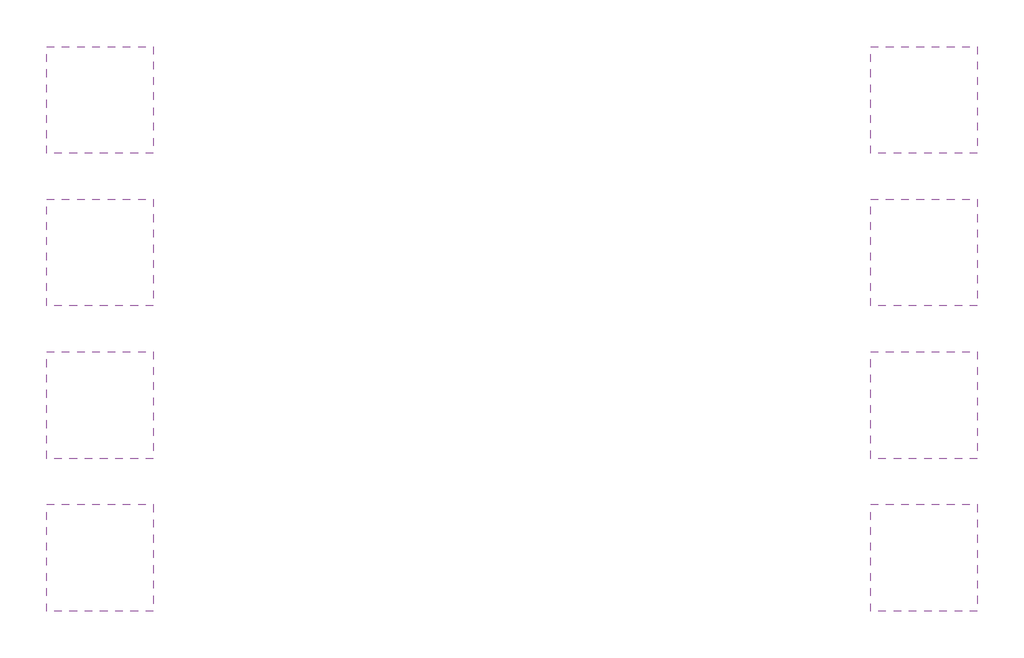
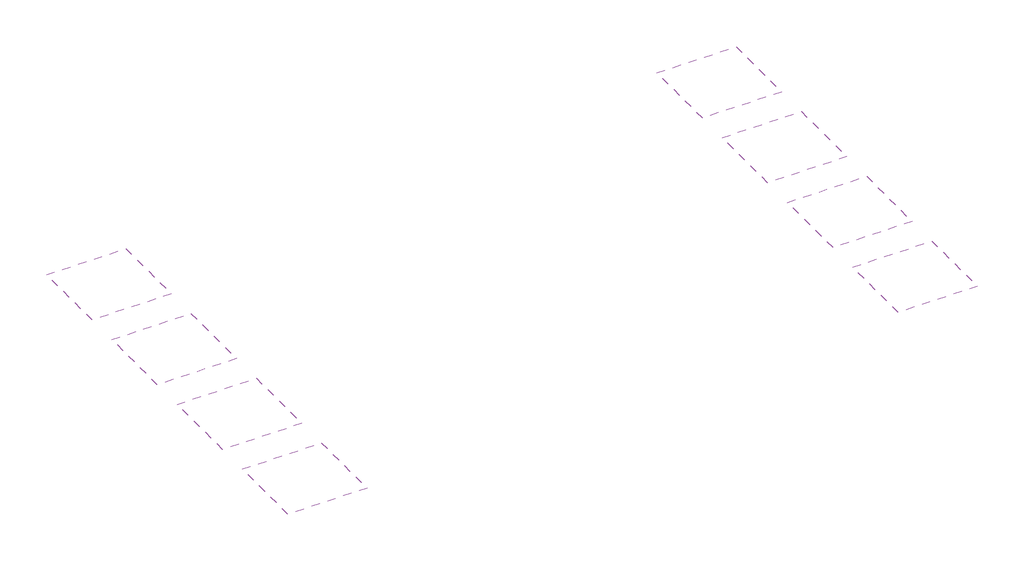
# One storey: 8 coverings.
"""IFC4 building model written with IfcOpenShell, lengths in millimetres."""

from ifc_helpers import new_model, si_unit, frame, origin, place, context, project, spatial, polyline, outline, extrude, element, save

model = new_model("IFC4")

# Units and contexts
model_context = context("Model", 3, world=origin())
ifc_project = project(units=[si_unit("LENGTHUNIT", "METRE", prefix="MILLI")], contexts=[model_context])

# Site, building, storey
site = spatial("IfcSite", under=ifc_project)
building = spatial("IfcBuilding", under=site)
storey = spatial("IfcBuildingStorey", under=building, Name="Gyptone Tile Series Edge A", Elevation=0.0)

# Coverings
placement = place(None, origin())
element("IfcCovering", 1, ObjectType="Gyptone Tile Base 31 (600mm x 600mm)", at=placement, inside=storey, context=model_context, shape_type="SweptSolid", body=[
    extrude(outline(polyline([(1488.7108797, 1750.6340483), (1488.7108797, -5249.3659517), (-5511.2891203, -5249.3659517), (-5511.2891203, 1750.6340483), (1488.7108797, 1750.6340483)])), frame((0.0, 0.0, 2600.0), z_axis=(0.0, 0.0, 1.0), x_axis=(1.0, 0.0, 0.0)), (0.0, 0.0, 1.0), 10.0),
])
element("IfcCovering", 2, ObjectType="Gyptone Tile Line 4 (600mm x 600mm)", at=placement, inside=storey, context=model_context, shape_type="SweptSolid", body=[
    extrude(outline(polyline([(1488.7108797, -8249.3659517), (1488.7108797, -15249.3659517), (-5511.2891203, -15249.3659517), (-5511.2891203, -8249.3659517), (1488.7108797, -8249.3659517)])), frame((0.0, 0.0, 2600.0), z_axis=(0.0, 0.0, 1.0), x_axis=(1.0, 0.0, 0.0)), (0.0, 0.0, 1.0), 10.0),
])
element("IfcCovering", 3, ObjectType="Gyptone Tile Point 11 (600mm x 600mm)", at=placement, inside=storey, context=model_context, shape_type="SweptSolid", body=[
    extrude(outline(polyline([(1488.7108797, -18249.3659517), (1488.7108797, -25249.3659517), (-5511.2891203, -25249.3659517), (-5511.2891203, -18249.3659517), (1488.7108797, -18249.3659517)])), frame((0.0, 0.0, 2600.0), z_axis=(0.0, 0.0, 1.0), x_axis=(1.0, 0.0, 0.0)), (0.0, 0.0, 1.0), 10.0),
])
element("IfcCovering", 4, ObjectType="Gyptone Tile Point 12 (600mm x 600mm)", at=placement, inside=storey, context=model_context, shape_type="SweptSolid", body=[
    extrude(outline(polyline([(1488.7108797, -28249.3659517), (1488.7108797, -35249.3659517), (-5511.2891203, -35249.3659517), (-5511.2891203, -28249.3659517), (1488.7108797, -28249.3659517)])), frame((0.0, 0.0, 2600.0), z_axis=(0.0, 0.0, 1.0), x_axis=(1.0, 0.0, 0.0)), (0.0, 0.0, 1.0), 10.0),
])
element("IfcCovering", 5, ObjectType="Gyptone Tile Sixto 60 (600mm x 600mm)", at=placement, inside=storey, context=model_context, shape_type="SweptSolid", body=[
    extrude(outline(polyline([(55488.7108797, -28249.3659517), (55488.7108797, -35249.3659517), (48488.7108797, -35249.3659517), (48488.7108797, -28249.3659517), (55488.7108797, -28249.3659517)])), frame((0.0, 0.0, 2600.0), z_axis=(0.0, 0.0, 1.0), x_axis=(1.0, 0.0, 0.0)), (0.0, 0.0, 1.0), 10.0),
])
element("IfcCovering", 6, ObjectType="Gyptone Tile Quattro 20 (600mm x 600mm)", at=placement, inside=storey, context=model_context, shape_type="SweptSolid", body=[
    extrude(outline(polyline([(55488.7108797, 1750.6340483), (55488.7108797, -5249.3659517), (48488.7108797, -5249.3659517), (48488.7108797, 1750.6340483), (55488.7108797, 1750.6340483)])), frame((0.0, 0.0, 2600.0), z_axis=(0.0, 0.0, 1.0), x_axis=(1.0, 0.0, 0.0)), (0.0, 0.0, 1.0), 10.0),
])
element("IfcCovering", 7, ObjectType="Gyptone Tile Quattro 22 (600mm x 600mm)", at=placement, inside=storey, context=model_context, shape_type="SweptSolid", body=[
    extrude(outline(polyline([(55488.7108797, -8249.3659517), (55488.7108797, -15249.3659517), (48488.7108797, -15249.3659517), (48488.7108797, -8249.3659517), (55488.7108797, -8249.3659517)])), frame((0.0, 0.0, 2600.0), z_axis=(0.0, 0.0, 1.0), x_axis=(1.0, 0.0, 0.0)), (0.0, 0.0, 1.0), 10.0),
])
element("IfcCovering", 8, ObjectType="Gyptone Tile Quattro 50 (600mm x 600mm)", at=placement, inside=storey, context=model_context, shape_type="SweptSolid", body=[
    extrude(outline(polyline([(55488.7108797, -18249.3659517), (55488.7108797, -25249.3659517), (48488.7108797, -25249.3659517), (48488.7108797, -18249.3659517), (55488.7108797, -18249.3659517)])), frame((0.0, 0.0, 2600.0), z_axis=(0.0, 0.0, 1.0), x_axis=(1.0, 0.0, 0.0)), (0.0, 0.0, 1.0), 10.0),
])

save(model, "model.ifc")
